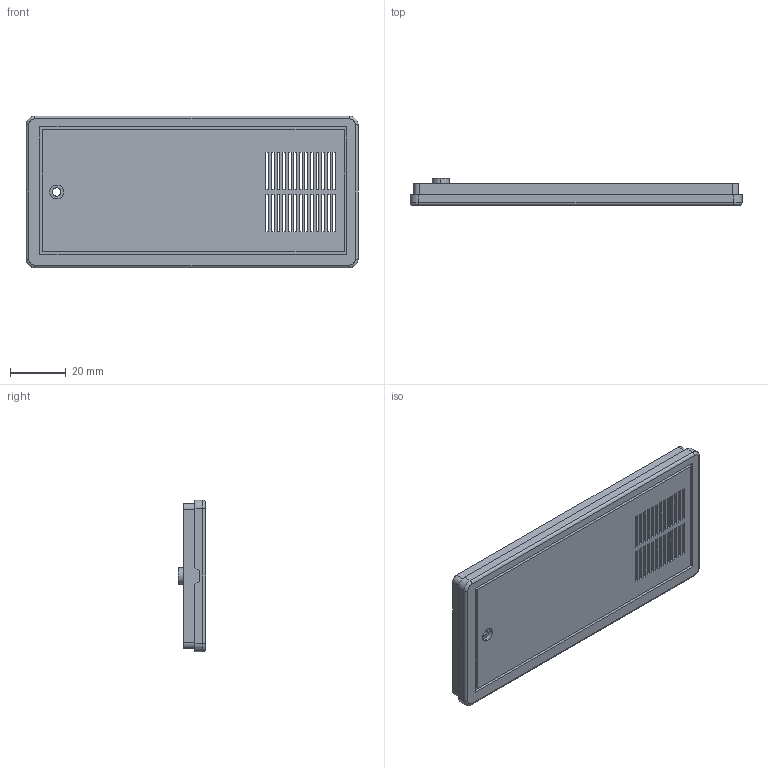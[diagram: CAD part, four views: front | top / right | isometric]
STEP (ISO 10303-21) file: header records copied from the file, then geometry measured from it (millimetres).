
FILE_DESCRIPTION (( 'STEP AP214' ), '1' );
FILE_NAME ('Tapa PP4A.STEP', '2017-07-17T08:57:54', ( 'aaa' ), ( '' ), 'SwSTEP 2.0', 'SolidWorks 2013', '' );
FILE_SCHEMA (( 'AUTOMOTIVE_DESIGN' ));
Length unit declared in the file: millimetre
Products named in the file (1): Tapa PP4A
Bounding box: 119 x 9.7 x 54.39 mm (x, y, z)
Volume: 16715.1 mm3; surface area: 19034.9 mm2
Topology: 1 solids, 1 shells, 161 faces, 454 edges, 300 vertices
Faces by surface type: plane 135, cylinder 22, torus 4
Entity records: 5274 total; most frequent: CARTESIAN_POINT 916, ORIENTED_EDGE 908, DIRECTION 826, EDGE_CURVE 454, LINE 406, VECTOR 406, VERTEX_POINT 300, EDGE_LOOP 220
